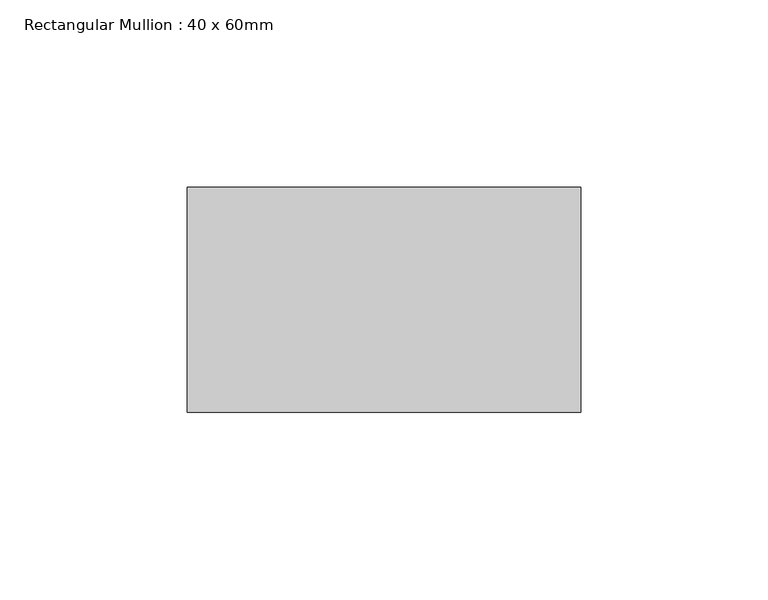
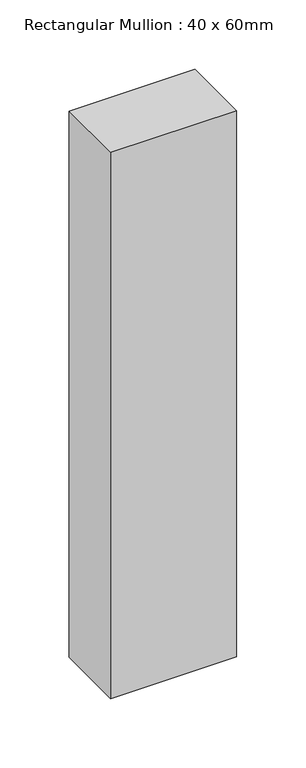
"""IFC4 building model written with IfcOpenShell, lengths in millimetres: member geometry, Rectangular Mullion : 40 x 60mm."""

from ifc_helpers import new_model, si_unit, frame, origin, place, context, project, spatial, polyline, outline, extrude, source, transform, mapped, element, save


def rectangular_mullion_40_x_60mm_6f47b238(model_context):
    return source(origin(), model_context, "Body", "SweptSolid", [
        extrude(outline(polyline([(0.0, -10.0), (0.0, -70.0), (-105.0, -70.0), (-105.0, -10.0), (0.0, -10.0)])), frame((0.0, 0.0, -481.0057895), z_axis=(0.0, 0.0, 1.0), x_axis=(1.0, 0.0, 0.0)), (0.0, 0.0, 1.0), 481.0057895),
    ])


if __name__ == "__main__":
    model = new_model("IFC4")
    model_context = context("Model", 3, world=origin())
    ifc_project = project(units=[si_unit("LENGTHUNIT", "METRE", prefix="MILLI")], contexts=[model_context])
    site = spatial("IfcSite", under=ifc_project)
    building = spatial("IfcBuilding", under=site)
    placement = place(None, origin())
    rectangular_mullion_40_x_60mm_shape = rectangular_mullion_40_x_60mm_6f47b238(model_context)
    element("IfcMember", 1, ObjectType="Rectangular Mullion : 40 x 60mm", at=placement, inside=building, context=model_context, shape_type="MappedRepresentation", body=[
        mapped(rectangular_mullion_40_x_60mm_shape, transform((0.0, 0.0, 0.0), x_axis=(1.0, 0.0, 0.0), y_axis=(0.0, 1.0, 0.0), z_axis=(0.0, 0.0, 1.0))),
    ])
    save(model, "model.ifc")
